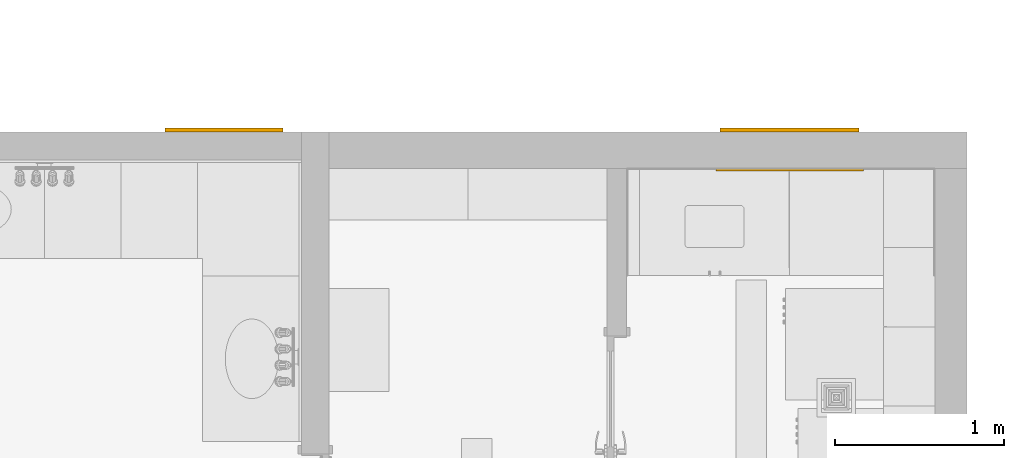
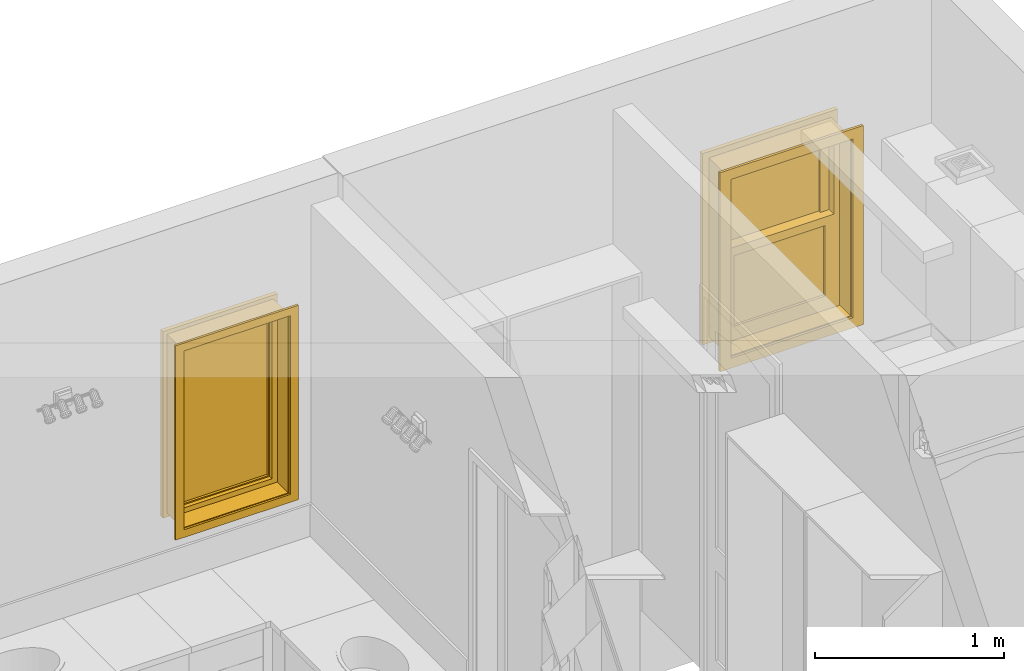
# One storey, part 39 of 77: 2 windows.
"""IFC2X3 building model written with IfcOpenShell, lengths in inches."""

from ifc_helpers import new_model, entity, si_unit, converted_unit, derived_unit, money_unit, direction, frame, origin_with_axes, place, context, subcontext, project, spatial, open_shell, faceted_brep, surface_model, type_object, element, save


model = new_model("IFC2X3")

# Units and contexts
model_context = context("Model", 3, precision=0.000393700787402, world=origin_with_axes(), true_north=direction((0.0, 1.0)))
body_context = subcontext(model_context, "Body", "Model", "MODEL_VIEW")
ifc_project = project(units=[converted_unit("LENGTHUNIT", "INCH", entity("IfcPositiveLengthMeasure", 0.0254), si_unit("LENGTHUNIT", "METRE"), dimensions=[1, 0, 0, 0, 0, 0, 0]), converted_unit("AREAUNIT", "SQUARE_FOOT", entity("IfcPositiveLengthMeasure", 0.09290304), si_unit("AREAUNIT", "SQUARE_METRE"), dimensions=[2, 0, 0, 0, 0, 0, 0]), si_unit("PLANEANGLEUNIT", "RADIAN"), si_unit("SOLIDANGLEUNIT", "STERADIAN"), money_unit("USD"), converted_unit("TIMEUNIT", "Year", entity("IfcTimeMeasure", 31556926.0), si_unit("TIMEUNIT", "SECOND"), dimensions=[0, 0, 1, 0, 0, 0, 0]), si_unit("MASSUNIT", "GRAM", prefix="KILO"), si_unit("THERMODYNAMICTEMPERATUREUNIT", "DEGREE_CELSIUS"), si_unit("LUMINOUSINTENSITYUNIT", "LUMEN"), si_unit("ENERGYUNIT", "JOULE", prefix="MEGA"), derived_unit("THERMALCONDUCTANCEUNIT", [(si_unit("POWERUNIT", "WATT"), 1), (si_unit("LENGTHUNIT", "METRE"), -1), (si_unit("THERMODYNAMICTEMPERATUREUNIT", "KELVIN"), -1)]), derived_unit("SPECIFICHEATCAPACITYUNIT", [(si_unit("ENERGYUNIT", "JOULE"), 1), (si_unit("MASSUNIT", "GRAM", prefix="KILO"), -1), (si_unit("THERMODYNAMICTEMPERATUREUNIT", "KELVIN"), -1)]), derived_unit("MASSDENSITYUNIT", [(si_unit("MASSUNIT", "GRAM", prefix="KILO"), 1), (si_unit("VOLUMEUNIT", "CUBIC_METRE"), -1)])], contexts=[model_context])

# Site, building, storey
site_placement = place(None, origin_with_axes())
site = spatial("IfcSite", under=ifc_project, at=site_placement, Name="Site", CompositionType="ELEMENT")
building_placement = place(site_placement, origin_with_axes())
building = spatial("IfcBuilding", under=site, at=building_placement, Name="Building", CompositionType="ELEMENT")
storey_placement = place(building_placement, frame((0.0, 0.0, 127.952755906), z_axis=(0.0, 0.0, 1.0), x_axis=(1.0, 0.0, 0.0)))
storey = spatial("IfcBuildingStorey", under=building, at=storey_placement, Name="Second Floor", CompositionType="ELEMENT", Elevation=127.953)

# Windows
window_style_1 = type_object("IfcWindowStyle", Name="Window 25", ConstructionType="NOTDEFINED", OperationType="SINGLE_PANEL", ParameterTakesPrecedence=False, Sizeable=False)
window_1_placement = place(storey_placement, frame((540.58210275, 582.981927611, 48.2283464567), z_axis=(0.0, 0.0, 1.0), x_axis=(1.0, 0.0, 0.0)))
element("IfcWindow", 1, at=window_1_placement, inside=storey, type_object=window_style_1, Name="W-34", OverallHeight=45.4724, OverallWidth=25.5906, context=body_context, shape_type="SurfaceModel", body=[
    faceted_brep([(25.5905511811, 4.53149606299, 0.0), (25.5905511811, 0.0, 0.0), (0.0, 0.0, 0.0), (0.0, 4.53149606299, 0.0), (25.5905511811, 4.53149606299, 45.4724409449), (25.5905511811, 0.0, 45.4724409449), (0.0, 0.0, 45.4724409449), (25.3937007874, 0.0, 0.196850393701), (0.196850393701, 0.0, 0.196850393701), (0.196850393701, 0.0, 45.2755905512), (25.3937007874, 0.0, 45.2755905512), (0.0, 4.53149606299, 45.4724409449), (25.3937007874, 4.53149606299, 0.196850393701), (25.3937007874, 4.53149606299, 45.2755905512), (0.196850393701, 4.53149606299, 45.2755905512), (0.196850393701, 4.53149606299, 0.196850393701)], [[[0, 1, 2, 3]], [[4, 5, 1, 0]], [[1, 5, 6, 2], [7, 8, 9, 10]], [[3, 2, 6, 11]], [[0, 3, 11, 4], [12, 13, 14, 15]], [[11, 6, 5, 4]], [[15, 8, 7, 12]], [[14, 9, 8, 15]], [[13, 10, 9, 14]], [[12, 7, 10, 13]]]),
    faceted_brep([(27.5590551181, -0.511811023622, -1.96850393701), (25.5905511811, -0.511811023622, 0.0), (25.5905511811, 0.0, 0.0), (27.5590551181, 0.0, -1.96850393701), (27.5590551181, -0.511811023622, 47.4409448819), (25.5905511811, -0.511811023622, 45.4724409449), (25.5905511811, 0.0, 45.4724409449), (27.5590551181, 0.0, 47.4409448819)], [[[0, 1, 2, 3]], [[0, 4, 5, 1]], [[1, 5, 6, 2]], [[3, 2, 6, 7]], [[4, 0, 3, 7]], [[5, 4, 7, 6]]]),
    faceted_brep([(-1.96850393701, -0.511811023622, 47.4409448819), (0.0, -0.511811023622, 45.4724409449), (0.0, 0.0, 45.4724409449), (-1.96850393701, 0.0, 47.4409448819), (-1.96850393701, -0.511811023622, -1.96850393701), (0.0, -0.511811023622, 0.0), (0.0, 0.0, 0.0), (-1.96850393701, 0.0, -1.96850393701)], [[[0, 1, 2, 3]], [[0, 4, 5, 1]], [[1, 5, 6, 2]], [[3, 2, 6, 7]], [[4, 0, 3, 7]], [[5, 4, 7, 6]]]),
    faceted_brep([(-1.96850393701, -0.511811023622, -1.96850393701), (0.0, -0.511811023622, 0.0), (0.0, 0.0, 0.0), (-1.96850393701, 0.0, -1.96850393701), (27.5590551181, -0.511811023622, -1.96850393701), (25.5905511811, -0.511811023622, 0.0), (25.5905511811, 0.0, 0.0), (27.5590551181, 0.0, -1.96850393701)], [[[0, 1, 2, 3]], [[0, 4, 5, 1]], [[1, 5, 6, 2]], [[3, 2, 6, 7]], [[4, 0, 3, 7]], [[5, 4, 7, 6]]]),
    faceted_brep([(27.5590551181, -0.511811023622, 47.4409448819), (25.5905511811, -0.511811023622, 45.4724409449), (25.5905511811, 0.0, 45.4724409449), (27.5590551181, 0.0, 47.4409448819), (-1.96850393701, -0.511811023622, 47.4409448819), (0.0, -0.511811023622, 45.4724409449), (0.0, 0.0, 45.4724409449), (-1.96850393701, 0.0, 47.4409448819)], [[[0, 1, 2, 3]], [[0, 4, 5, 1]], [[1, 5, 6, 2]], [[3, 2, 6, 7]], [[4, 0, 3, 7]], [[5, 4, 7, 6]]]),
    faceted_brep([(26.5748031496, 7.4842519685, -0.984251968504), (26.5748031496, 6.5, -0.984251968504), (24.6062992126, 6.5, 0.984251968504), (24.6062992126, 7.4842519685, 0.984251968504), (26.5748031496, 7.4842519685, 46.4566929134), (26.5748031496, 6.5, 46.4566929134), (24.6062992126, 6.5, 44.4881889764), (24.6062992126, 7.4842519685, 44.4881889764)], [[[0, 1, 2, 3]], [[4, 5, 1, 0]], [[1, 5, 6, 2]], [[3, 2, 6, 7]], [[0, 3, 7, 4]], [[7, 6, 5, 4]]]),
    faceted_brep([(-0.984251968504, 7.4842519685, 46.4566929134), (-0.984251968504, 6.5, 46.4566929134), (0.984251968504, 6.5, 44.4881889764), (0.984251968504, 7.4842519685, 44.4881889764), (-0.984251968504, 7.4842519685, -0.984251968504), (-0.984251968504, 6.5, -0.984251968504), (0.984251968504, 6.5, 0.984251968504), (0.984251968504, 7.4842519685, 0.984251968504)], [[[0, 1, 2, 3]], [[4, 5, 1, 0]], [[1, 5, 6, 2]], [[3, 2, 6, 7]], [[0, 3, 7, 4]], [[7, 6, 5, 4]]]),
    faceted_brep([(-0.984251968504, 7.4842519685, -0.984251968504), (-0.984251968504, 6.5, -0.984251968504), (0.984251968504, 6.5, 0.984251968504), (0.984251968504, 7.4842519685, 0.984251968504), (26.5748031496, 7.4842519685, -0.984251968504), (26.5748031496, 6.5, -0.984251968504), (24.6062992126, 6.5, 0.984251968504), (24.6062992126, 7.4842519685, 0.984251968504)], [[[0, 1, 2, 3]], [[4, 5, 1, 0]], [[1, 5, 6, 2]], [[3, 2, 6, 7]], [[0, 3, 7, 4]], [[7, 6, 5, 4]]]),
    faceted_brep([(26.5748031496, 7.4842519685, 46.4566929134), (26.5748031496, 6.5, 46.4566929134), (24.6062992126, 6.5, 44.4881889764), (24.6062992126, 7.4842519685, 44.4881889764), (-0.984251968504, 7.4842519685, 46.4566929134), (-0.984251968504, 6.5, 46.4566929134), (0.984251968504, 6.5, 44.4881889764), (0.984251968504, 7.4842519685, 44.4881889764)], [[[0, 1, 2, 3]], [[4, 5, 1, 0]], [[1, 5, 6, 2]], [[3, 2, 6, 7]], [[0, 3, 7, 4]], [[7, 6, 5, 4]]]),
    faceted_brep([(25.0787401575, 6.5, 43.9763779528), (25.0787401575, 5.5157480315, 43.9763779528), (24.094488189, 5.5157480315, 43.9763779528), (24.094488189, 4.53149606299, 43.9763779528), (25.5905511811, 4.53149606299, 43.9763779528), (25.5905511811, 6.5, 43.9763779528), (25.0787401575, 6.5, 1.49606299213), (25.0787401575, 5.5157480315, 1.49606299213), (24.094488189, 5.5157480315, 1.49606299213), (24.094488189, 4.53149606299, 1.49606299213), (25.5905511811, 4.53149606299, 1.49606299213), (25.5905511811, 6.5, 1.49606299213)], [[[0, 1, 2, 3, 4, 5]], [[1, 0, 6, 7]], [[8, 2, 1, 7]], [[2, 8, 9, 3]], [[4, 3, 9, 10]], [[5, 4, 10, 11]], [[6, 0, 5, 11]], [[7, 6, 11, 10, 9, 8]]]),
    faceted_brep([(1.49606299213, 5.5157480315, 43.9763779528), (0.511811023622, 5.5157480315, 43.9763779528), (0.511811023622, 6.5, 43.9763779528), (0.0, 6.5, 43.9763779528), (0.0, 4.53149606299, 43.9763779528), (1.49606299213, 4.53149606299, 43.9763779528), (1.49606299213, 5.5157480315, 1.49606299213), (0.511811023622, 5.5157480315, 1.49606299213), (0.511811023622, 6.5, 1.49606299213), (0.0, 6.5, 1.49606299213), (0.0, 4.53149606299, 1.49606299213), (1.49606299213, 4.53149606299, 1.49606299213)], [[[0, 1, 2, 3, 4, 5]], [[1, 0, 6, 7]], [[8, 2, 1, 7]], [[2, 8, 9, 3]], [[9, 10, 4, 3]], [[10, 11, 5, 4]], [[6, 0, 5, 11]], [[7, 6, 11, 10, 9, 8]]]),
    faceted_brep([(1.49606299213, 5.5157480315, 1.49606299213), (0.511811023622, 5.5157480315, 1.49606299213), (0.511811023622, 6.5, 1.49606299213), (0.0, 6.5, 1.49606299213), (0.0, 4.53149606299, 1.49606299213), (1.49606299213, 4.53149606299, 1.49606299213), (24.094488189, 5.5157480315, 1.49606299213), (25.0787401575, 5.5157480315, 1.49606299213), (25.0787401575, 5.5157480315, 0.511811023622), (0.511811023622, 5.5157480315, 0.511811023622), (0.511811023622, 6.5, 0.511811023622), (25.0787401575, 6.5, 0.511811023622), (25.0787401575, 6.5, 1.49606299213), (25.5905511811, 6.5, 1.49606299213), (25.5905511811, 6.5, 0.0), (0.0, 6.5, 0.0), (0.0, 4.53149606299, 0.0), (25.5905511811, 4.53149606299, 1.49606299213), (24.094488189, 4.53149606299, 1.49606299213), (25.5905511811, 4.53149606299, 0.0)], [[[0, 1, 2, 3, 4, 5]], [[1, 0, 6, 7, 8, 9]], [[10, 2, 1, 9]], [[11, 12, 13, 14, 15, 3, 2, 10]], [[15, 16, 4, 3]], [[17, 18, 5, 4, 16, 19]], [[6, 0, 5, 18]], [[7, 6, 18, 17, 13, 12]], [[7, 12, 11, 8]], [[11, 10, 9, 8]], [[13, 17, 19, 14]], [[14, 19, 16, 15]]]),
    faceted_brep([(25.0787401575, 6.5, 43.9763779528), (25.0787401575, 6.5, 44.9606299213), (0.511811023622, 6.5, 44.9606299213), (0.511811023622, 6.5, 43.9763779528), (0.0, 6.5, 43.9763779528), (0.0, 6.5, 45.4724409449), (25.5905511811, 6.5, 45.4724409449), (25.5905511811, 6.5, 43.9763779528), (25.0787401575, 5.5157480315, 43.9763779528), (25.0787401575, 5.5157480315, 44.9606299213), (0.511811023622, 5.5157480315, 44.9606299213), (0.511811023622, 5.5157480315, 43.9763779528), (1.49606299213, 5.5157480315, 43.9763779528), (1.49606299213, 4.53149606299, 43.9763779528), (0.0, 4.53149606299, 43.9763779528), (0.0, 4.53149606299, 45.4724409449), (25.5905511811, 4.53149606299, 45.4724409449), (25.5905511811, 4.53149606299, 43.9763779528), (24.094488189, 4.53149606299, 43.9763779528), (24.094488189, 5.5157480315, 43.9763779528)], [[[0, 1, 2, 3, 4, 5, 6, 7]], [[1, 0, 8, 9]], [[2, 1, 9, 10]], [[3, 2, 10, 11]], [[11, 12, 13, 14, 4, 3]], [[4, 14, 15, 5]], [[5, 15, 16, 6]], [[6, 16, 17, 7]], [[8, 0, 7, 17, 18, 19]], [[12, 11, 10, 9, 8, 19]], [[12, 19, 18, 13]], [[14, 13, 18, 17, 16, 15]]]),
    faceted_brep([(23.8188976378, 5.5157480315, 43.7007874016), (25.0787401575, 5.5157480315, 43.7007874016), (25.0787401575, 7.4842519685, 43.7007874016), (23.8188976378, 7.4842519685, 43.7007874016), (23.8188976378, 5.5157480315, 1.77165354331), (25.0787401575, 5.5157480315, 1.77165354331), (25.0787401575, 7.4842519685, 1.77165354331), (23.8188976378, 7.4842519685, 1.77165354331)], [[[0, 1, 2, 3]], [[0, 4, 5, 1]], [[1, 5, 6, 2]], [[3, 2, 6, 7]], [[4, 0, 3, 7]], [[5, 4, 7, 6]]]),
    faceted_brep([(1.77165354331, 5.5157480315, 1.77165354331), (0.511811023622, 5.5157480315, 1.77165354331), (0.511811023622, 7.4842519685, 1.77165354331), (1.77165354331, 7.4842519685, 1.77165354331), (1.77165354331, 5.5157480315, 43.7007874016), (0.511811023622, 5.5157480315, 43.7007874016), (0.511811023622, 7.4842519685, 43.7007874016), (1.77165354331, 7.4842519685, 43.7007874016)], [[[0, 1, 2, 3]], [[0, 4, 5, 1]], [[1, 5, 6, 2]], [[3, 2, 6, 7]], [[4, 0, 3, 7]], [[5, 4, 7, 6]]]),
    faceted_brep([(0.511811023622, 5.5157480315, 0.511811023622), (0.511811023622, 5.5157480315, 1.77165354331), (0.511811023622, 7.4842519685, 1.77165354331), (0.511811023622, 7.4842519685, 0.511811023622), (25.0787401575, 5.5157480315, 0.511811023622), (25.0787401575, 5.5157480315, 1.77165354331), (23.8188976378, 5.5157480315, 1.77165354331), (1.77165354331, 5.5157480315, 1.77165354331), (1.77165354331, 7.4842519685, 1.77165354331), (23.8188976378, 7.4842519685, 1.77165354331), (25.0787401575, 7.4842519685, 1.77165354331), (25.0787401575, 7.4842519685, 0.511811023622)], [[[0, 1, 2, 3]], [[0, 4, 5, 6, 7, 1]], [[1, 7, 8, 2]], [[3, 2, 8, 9, 10, 11]], [[4, 0, 3, 11]], [[5, 4, 11, 10]], [[6, 5, 10, 9]], [[7, 6, 9, 8]]]),
    faceted_brep([(25.0787401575, 5.5157480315, 44.9606299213), (25.0787401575, 5.5157480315, 43.7007874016), (25.0787401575, 7.4842519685, 43.7007874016), (25.0787401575, 7.4842519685, 44.9606299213), (0.511811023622, 5.5157480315, 44.9606299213), (0.511811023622, 5.5157480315, 43.7007874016), (1.77165354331, 5.5157480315, 43.7007874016), (23.8188976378, 5.5157480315, 43.7007874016), (23.8188976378, 7.4842519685, 43.7007874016), (1.77165354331, 7.4842519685, 43.7007874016), (0.511811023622, 7.4842519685, 43.7007874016), (0.511811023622, 7.4842519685, 44.9606299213)], [[[0, 1, 2, 3]], [[0, 4, 5, 6, 7, 1]], [[1, 7, 8, 2]], [[3, 2, 8, 9, 10, 11]], [[4, 0, 3, 11]], [[5, 4, 11, 10]], [[6, 5, 10, 9]], [[7, 6, 9, 8]]]),
    surface_model("IfcShellBasedSurfaceModel", [(23.8188976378, 6.1062992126, 1.77165354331), (23.8188976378, 6.1062992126, 43.7007874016), (1.77165354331, 6.1062992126, 43.7007874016), (1.77165354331, 6.1062992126, 1.77165354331)], [open_shell([[[0, 1, 2, 3]]])]),
    surface_model("IfcShellBasedSurfaceModel", [(23.8188976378, 6.8937007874, 1.77165354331), (1.77165354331, 6.8937007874, 1.77165354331), (1.77165354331, 6.8937007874, 43.7007874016), (23.8188976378, 6.8937007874, 43.7007874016)], [open_shell([[[0, 1, 2, 3]]])]),
])
window_style_2 = type_object("IfcWindowStyle", Name="Double-Hung Window 25", ConstructionType="NOTDEFINED", OperationType="DOUBLE_PANEL_HORIZONTAL", ParameterTakesPrecedence=False, Sizeable=False)
window_2_placement = place(storey_placement, frame((700.250947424, 581.014426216, 47.4409448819), z_axis=(0.0, 0.0, 1.0), x_axis=(-1.0, -1.18114733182e-09, 0.0)))
element("IfcWindow", 2, at=window_2_placement, inside=storey, type_object=window_style_2, Name="W-35", OverallHeight=45.4724, OverallWidth=29.3307, context=body_context, shape_type="SurfaceModel", body=[
    faceted_brep([(-5.34781318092e-09, -4.52755891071, 0.0), (0.0, 1.44410188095e-07, 0.0), (29.3307086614, 1.09766334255e-07, 0.0), (29.3307086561, -4.52755894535, 0.0), (-5.34781318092e-09, -4.52755891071, 45.4724409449), (0.0, 1.44410188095e-07, 45.4724409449), (29.3307086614, 1.09766334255e-07, 45.4724409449), (0.196850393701, 1.44177723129e-07, 0.196850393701), (29.1338582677, 1.09998869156e-07, 0.196850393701), (29.1338582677, 1.09998869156e-07, 45.2755905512), (0.196850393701, 1.44177723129e-07, 45.2755905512), (29.3307086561, -4.52755894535, 45.4724409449), (0.196850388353, -4.52755891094, 0.196850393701), (0.196850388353, -4.52755891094, 45.2755905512), (29.1338582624, -4.52755894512, 45.2755905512), (29.1338582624, -4.52755894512, 0.196850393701)], [[[0, 1, 2, 3]], [[4, 5, 1, 0]], [[1, 5, 6, 2], [7, 8, 9, 10]], [[3, 2, 6, 11]], [[0, 3, 11, 4], [12, 13, 14, 15]], [[11, 6, 5, 4]], [[15, 8, 7, 12]], [[14, 9, 8, 15]], [[13, 10, 9, 14]], [[12, 7, 10, 13]]]),
    faceted_brep([(-2.55905511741, 0.590551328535, -2.55905511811), (6.97394897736e-10, 0.590551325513, 0.0), (0.0, 1.44410188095e-07, 0.0), (-2.55905511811, 1.47432862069e-07, -2.55905511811), (-2.55905511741, 0.590551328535, 48.031496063), (6.97394897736e-10, 0.590551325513, 45.4724409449), (0.0, 1.44410188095e-07, 45.4724409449), (-2.55905511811, 1.47432862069e-07, 48.031496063)], [[[0, 1, 2, 3]], [[0, 4, 5, 1]], [[1, 5, 6, 2]], [[3, 2, 6, 7]], [[4, 0, 3, 7]], [[5, 4, 7, 6]]]),
    faceted_brep([(31.8897637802, 0.590551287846, 48.031496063), (29.3307086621, 0.590551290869, 45.4724409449), (29.3307086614, 1.09766334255e-07, 45.4724409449), (31.8897637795, 1.06743730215e-07, 48.031496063), (31.8897637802, 0.590551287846, -2.55905511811), (29.3307086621, 0.590551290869, 0.0), (29.3307086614, 1.09766334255e-07, 0.0), (31.8897637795, 1.06743730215e-07, -2.55905511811)], [[[0, 1, 2, 3]], [[0, 4, 5, 1]], [[1, 5, 6, 2]], [[3, 2, 6, 7]], [[4, 0, 3, 7]], [[5, 4, 7, 6]]]),
    faceted_brep([(31.8897637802, 0.590551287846, -2.55905511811), (29.3307086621, 0.590551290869, 0.0), (29.3307086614, 1.09766334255e-07, 0.0), (31.8897637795, 1.06743730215e-07, -2.55905511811), (-2.55905511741, 0.590551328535, -2.55905511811), (6.97394897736e-10, 0.590551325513, 0.0), (0.0, 1.44410188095e-07, 0.0), (-2.55905511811, 1.47432862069e-07, -2.55905511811)], [[[0, 1, 2, 3]], [[0, 4, 5, 1]], [[1, 5, 6, 2]], [[3, 2, 6, 7]], [[4, 0, 3, 7]], [[5, 4, 7, 6]]]),
    faceted_brep([(-2.55905511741, 0.590551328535, 48.031496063), (6.97394897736e-10, 0.590551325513, 45.4724409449), (0.0, 1.44410188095e-07, 45.4724409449), (-2.55905511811, 1.47432862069e-07, 48.031496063), (31.8897637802, 0.590551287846, 48.031496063), (29.3307086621, 0.590551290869, 45.4724409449), (29.3307086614, 1.09766334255e-07, 45.4724409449), (31.8897637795, 1.06743730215e-07, 48.031496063)], [[[0, 1, 2, 3]], [[0, 4, 5, 1]], [[1, 5, 6, 2]], [[3, 2, 6, 7]], [[4, 0, 3, 7]], [[5, 4, 7, 6]]]),
    faceted_brep([(-1.57480316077, -9.44881875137, -1.57480314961), (-1.5748031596, -8.46456678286, -1.57480314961), (0.984251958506, -8.46456678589, 0.984251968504), (0.984251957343, -9.44881875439, 0.984251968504), (-1.57480316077, -9.44881875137, 47.0472440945), (-1.5748031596, -8.46456678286, 47.0472440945), (0.984251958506, -8.46456678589, 44.4881889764), (0.984251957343, -9.44881875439, 44.4881889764)], [[[0, 1, 2, 3]], [[4, 5, 1, 0]], [[1, 5, 6, 2]], [[3, 2, 6, 7]], [[0, 3, 7, 4]], [[7, 6, 5, 4]]]),
    faceted_brep([(30.9055117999, -9.44881878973, 47.0472440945), (30.905511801, -8.46456682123, 47.0472440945), (28.3464566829, -8.4645668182, 44.4881889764), (28.3464566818, -9.44881878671, 44.4881889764), (30.9055117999, -9.44881878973, -1.57480314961), (30.905511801, -8.46456682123, -1.57480314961), (28.3464566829, -8.4645668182, 0.984251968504), (28.3464566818, -9.44881878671, 0.984251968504)], [[[0, 1, 2, 3]], [[4, 5, 1, 0]], [[1, 5, 6, 2]], [[3, 2, 6, 7]], [[0, 3, 7, 4]], [[7, 6, 5, 4]]]),
    faceted_brep([(30.9055117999, -9.44881878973, -1.57480314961), (30.905511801, -8.46456682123, -1.57480314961), (28.3464566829, -8.4645668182, 0.984251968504), (28.3464566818, -9.44881878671, 0.984251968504), (-1.57480316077, -9.44881875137, -1.57480314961), (-1.5748031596, -8.46456678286, -1.57480314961), (0.984251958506, -8.46456678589, 0.984251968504), (0.984251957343, -9.44881875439, 0.984251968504)], [[[0, 1, 2, 3]], [[4, 5, 1, 0]], [[1, 5, 6, 2]], [[3, 2, 6, 7]], [[0, 3, 7, 4]], [[7, 6, 5, 4]]]),
    faceted_brep([(-1.57480316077, -9.44881875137, 47.0472440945), (-1.5748031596, -8.46456678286, 47.0472440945), (0.984251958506, -8.46456678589, 44.4881889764), (0.984251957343, -9.44881875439, 44.4881889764), (30.9055117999, -9.44881878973, 47.0472440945), (30.905511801, -8.46456682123, 47.0472440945), (28.3464566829, -8.4645668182, 44.4881889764), (28.3464566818, -9.44881878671, 44.4881889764)], [[[0, 1, 2, 3]], [[4, 5, 1, 0]], [[1, 5, 6, 2]], [[3, 2, 6, 7]], [[0, 3, 7, 4]], [[7, 6, 5, 4]]]),
    faceted_brep([(1.57480313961, -8.46456678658, 43.8976377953), (1.57480314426, -4.52755891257, 43.8976377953), (-5.34781318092e-09, -4.52755891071, 43.8976377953), (-9.99795172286e-09, -8.46456678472, 43.8976377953), (1.57480313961, -8.46456678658, 1.57480314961), (1.57480314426, -4.52755891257, 1.57480314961), (-5.34781318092e-09, -4.52755891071, 1.57480314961), (-9.99795172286e-09, -8.46456678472, 1.57480314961)], [[[0, 1, 2, 3]], [[4, 5, 1, 0]], [[1, 5, 6, 2]], [[3, 2, 6, 7]], [[0, 3, 7, 4]], [[7, 6, 5, 4]]]),
    faceted_brep([(27.7559055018, -8.46456681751, 1.57480314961), (27.7559055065, -4.52755894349, 1.57480314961), (29.3307086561, -4.52755894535, 1.57480314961), (29.3307086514, -8.46456681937, 1.57480314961), (27.7559055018, -8.46456681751, 43.8976377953), (27.7559055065, -4.52755894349, 43.8976377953), (29.3307086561, -4.52755894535, 43.8976377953), (29.3307086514, -8.46456681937, 43.8976377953)], [[[0, 1, 2, 3]], [[4, 5, 1, 0]], [[1, 5, 6, 2]], [[3, 2, 6, 7]], [[0, 3, 7, 4]], [[7, 6, 5, 4]]]),
    faceted_brep([(1.57480313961, -8.46456678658, 1.57480314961), (1.57480314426, -4.52755891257, 1.57480314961), (-5.34781318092e-09, -4.52755891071, 1.57480314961), (-9.99795172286e-09, -8.46456678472, 1.57480314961), (27.7559055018, -8.46456681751, 1.57480314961), (27.7559055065, -4.52755894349, 1.57480314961), (29.3307086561, -4.52755894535, 1.57480314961), (29.3307086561, -4.52755894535, 0.0), (-5.34781318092e-09, -4.52755891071, 0.0), (-9.99795172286e-09, -8.46456678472, 0.0), (29.3307086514, -8.46456681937, 0.0), (29.3307086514, -8.46456681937, 1.57480314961)], [[[0, 1, 2, 3]], [[4, 5, 1, 0]], [[1, 5, 6, 7, 8, 2]], [[3, 2, 8, 9]], [[0, 3, 9, 10, 11, 4]], [[11, 6, 5, 4]], [[10, 7, 6, 11]], [[9, 8, 7, 10]]]),
    faceted_brep([(27.7559055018, -8.46456681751, 43.8976377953), (27.7559055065, -4.52755894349, 43.8976377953), (29.3307086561, -4.52755894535, 43.8976377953), (29.3307086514, -8.46456681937, 43.8976377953), (1.57480313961, -8.46456678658, 43.8976377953), (1.57480314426, -4.52755891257, 43.8976377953), (-5.34781318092e-09, -4.52755891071, 43.8976377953), (-5.34781318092e-09, -4.52755891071, 45.4724409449), (29.3307086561, -4.52755894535, 45.4724409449), (29.3307086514, -8.46456681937, 45.4724409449), (-9.99795172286e-09, -8.46456678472, 45.4724409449), (-9.99795172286e-09, -8.46456678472, 43.8976377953)], [[[0, 1, 2, 3]], [[4, 5, 1, 0]], [[1, 5, 6, 7, 8, 2]], [[3, 2, 8, 9]], [[0, 3, 9, 10, 11, 4]], [[11, 6, 5, 4]], [[10, 7, 6, 11]], [[9, 8, 7, 10]]]),
    faceted_brep([(3.74015747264, -6.49606285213, 21.6535433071), (3.74015747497, -4.52755891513, 21.6535433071), (1.57480314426, -4.52755891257, 21.6535433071), (1.57480314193, -6.49606284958, 21.6535433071), (3.74015747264, -6.49606285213, 3.74015748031), (3.74015747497, -4.52755891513, 3.74015748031), (1.57480314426, -4.52755891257, 3.74015748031), (1.57480314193, -6.49606284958, 3.74015748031)], [[[0, 1, 2, 3]], [[4, 5, 1, 0]], [[1, 5, 6, 2]], [[3, 2, 6, 7]], [[0, 3, 7, 4]], [[7, 6, 5, 4]]]),
    faceted_brep([(25.5905511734, -6.49606287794, 3.74015748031), (25.5905511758, -4.52755894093, 3.74015748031), (27.7559055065, -4.52755894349, 3.74015748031), (27.7559055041, -6.4960628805, 3.74015748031), (25.5905511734, -6.49606287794, 21.6535433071), (25.5905511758, -4.52755894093, 21.6535433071), (27.7559055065, -4.52755894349, 21.6535433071), (27.7559055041, -6.4960628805, 21.6535433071)], [[[0, 1, 2, 3]], [[4, 5, 1, 0]], [[1, 5, 6, 2]], [[3, 2, 6, 7]], [[0, 3, 7, 4]], [[7, 6, 5, 4]]]),
    faceted_brep([(27.7559055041, -6.4960628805, 1.57480314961), (27.7559055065, -4.52755894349, 1.57480314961), (27.7559055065, -4.52755894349, 3.74015748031), (27.7559055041, -6.4960628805, 3.74015748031), (1.57480314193, -6.49606284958, 1.57480314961), (1.57480314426, -4.52755891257, 1.57480314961), (1.57480314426, -4.52755891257, 3.74015748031), (3.74015747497, -4.52755891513, 3.74015748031), (25.5905511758, -4.52755894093, 3.74015748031), (25.5905511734, -6.49606287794, 3.74015748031), (3.74015747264, -6.49606285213, 3.74015748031), (1.57480314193, -6.49606284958, 3.74015748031)], [[[0, 1, 2, 3]], [[4, 5, 1, 0]], [[1, 5, 6, 7, 8, 2]], [[3, 2, 8, 9]], [[0, 3, 9, 10, 11, 4]], [[11, 6, 5, 4]], [[10, 7, 6, 11]], [[9, 8, 7, 10]]]),
    faceted_brep([(1.57480314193, -6.49606284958, 23.8188976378), (1.57480314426, -4.52755891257, 23.8188976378), (1.57480314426, -4.52755891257, 21.6535433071), (1.57480314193, -6.49606284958, 21.6535433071), (27.7559055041, -6.4960628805, 23.8188976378), (27.7559055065, -4.52755894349, 23.8188976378), (27.7559055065, -4.52755894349, 21.6535433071), (25.5905511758, -4.52755894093, 21.6535433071), (3.74015747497, -4.52755891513, 21.6535433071), (3.74015747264, -6.49606285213, 21.6535433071), (25.5905511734, -6.49606287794, 21.6535433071), (27.7559055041, -6.4960628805, 21.6535433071)], [[[0, 1, 2, 3]], [[4, 5, 1, 0]], [[1, 5, 6, 7, 8, 2]], [[3, 2, 8, 9]], [[0, 3, 9, 10, 11, 4]], [[11, 6, 5, 4]], [[10, 7, 6, 11]], [[9, 8, 7, 10]]]),
    surface_model("IfcShellBasedSurfaceModel", [(3.74015747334, -5.90551167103, 3.74015748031), (25.5905511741, -5.90551169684, 3.74015748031), (25.5905511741, -5.90551169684, 21.6535433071), (3.74015747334, -5.90551167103, 21.6535433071)], [open_shell([[[0, 1, 2, 3]]])]),
    surface_model("IfcShellBasedSurfaceModel", [(3.74015747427, -5.11811009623, 3.74015748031), (3.74015747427, -5.11811009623, 21.6535433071), (25.5905511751, -5.11811012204, 21.6535433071), (25.5905511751, -5.11811012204, 3.74015748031)], [open_shell([[[0, 1, 2, 3]]])]),
    faceted_brep([(3.74015747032, -8.46456678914, 41.7322834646), (3.74015747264, -6.49606285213, 41.7322834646), (1.57480314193, -6.49606284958, 41.7322834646), (1.57480313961, -8.46456678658, 41.7322834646), (3.74015747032, -8.46456678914, 23.8188976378), (3.74015747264, -6.49606285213, 23.8188976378), (1.57480314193, -6.49606284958, 23.8188976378), (1.57480313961, -8.46456678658, 23.8188976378)], [[[0, 1, 2, 3]], [[4, 5, 1, 0]], [[1, 5, 6, 2]], [[3, 2, 6, 7]], [[0, 3, 7, 4]], [[7, 6, 5, 4]]]),
    faceted_brep([(25.5905511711, -8.46456681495, 23.8188976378), (25.5905511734, -6.49606287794, 23.8188976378), (27.7559055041, -6.4960628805, 23.8188976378), (27.7559055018, -8.46456681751, 23.8188976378), (25.5905511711, -8.46456681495, 41.7322834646), (25.5905511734, -6.49606287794, 41.7322834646), (27.7559055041, -6.4960628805, 41.7322834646), (27.7559055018, -8.46456681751, 41.7322834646)], [[[0, 1, 2, 3]], [[4, 5, 1, 0]], [[1, 5, 6, 2]], [[3, 2, 6, 7]], [[0, 3, 7, 4]], [[7, 6, 5, 4]]]),
    faceted_brep([(27.7559055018, -8.46456681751, 21.6535433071), (27.7559055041, -6.4960628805, 21.6535433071), (27.7559055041, -6.4960628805, 23.8188976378), (27.7559055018, -8.46456681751, 23.8188976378), (1.57480313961, -8.46456678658, 21.6535433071), (1.57480314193, -6.49606284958, 21.6535433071), (1.57480314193, -6.49606284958, 23.8188976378), (3.74015747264, -6.49606285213, 23.8188976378), (25.5905511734, -6.49606287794, 23.8188976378), (25.5905511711, -8.46456681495, 23.8188976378), (3.74015747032, -8.46456678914, 23.8188976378), (1.57480313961, -8.46456678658, 23.8188976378)], [[[0, 1, 2, 3]], [[4, 5, 1, 0]], [[1, 5, 6, 7, 8, 2]], [[3, 2, 8, 9]], [[0, 3, 9, 10, 11, 4]], [[11, 6, 5, 4]], [[10, 7, 6, 11]], [[9, 8, 7, 10]]]),
    faceted_brep([(1.57480313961, -8.46456678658, 43.8976377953), (1.57480314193, -6.49606284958, 43.8976377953), (1.57480314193, -6.49606284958, 41.7322834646), (1.57480313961, -8.46456678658, 41.7322834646), (27.7559055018, -8.46456681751, 43.8976377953), (27.7559055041, -6.4960628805, 43.8976377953), (27.7559055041, -6.4960628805, 41.7322834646), (25.5905511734, -6.49606287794, 41.7322834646), (3.74015747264, -6.49606285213, 41.7322834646), (3.74015747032, -8.46456678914, 41.7322834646), (25.5905511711, -8.46456681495, 41.7322834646), (27.7559055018, -8.46456681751, 41.7322834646)], [[[0, 1, 2, 3]], [[4, 5, 1, 0]], [[1, 5, 6, 7, 8, 2]], [[3, 2, 8, 9]], [[0, 3, 9, 10, 11, 4]], [[11, 6, 5, 4]], [[10, 7, 6, 11]], [[9, 8, 7, 10]]]),
    surface_model("IfcShellBasedSurfaceModel", [(3.74015747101, -7.87401560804, 23.8188976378), (25.5905511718, -7.87401563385, 23.8188976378), (25.5905511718, -7.87401563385, 41.7322834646), (3.74015747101, -7.87401560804, 41.7322834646)], [open_shell([[[0, 1, 2, 3]]])]),
    surface_model("IfcShellBasedSurfaceModel", [(3.74015747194, -7.08661403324, 23.8188976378), (3.74015747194, -7.08661403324, 41.7322834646), (25.5905511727, -7.08661405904, 41.7322834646), (25.5905511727, -7.08661405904, 23.8188976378)], [open_shell([[[0, 1, 2, 3]]])]),
])

save(model, "model.ifc")
